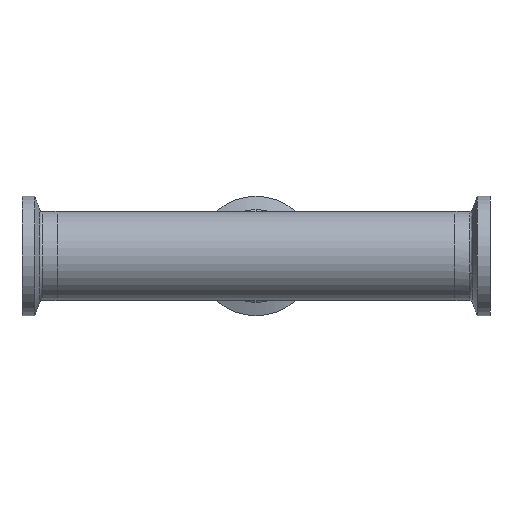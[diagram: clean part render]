
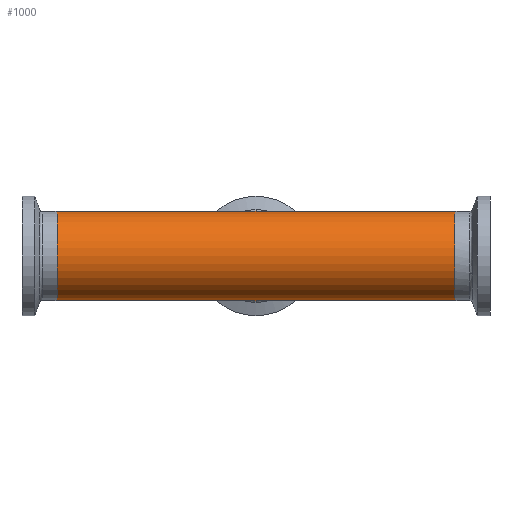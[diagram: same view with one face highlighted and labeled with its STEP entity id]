
A CAD part, front view. The second image highlights one B-rep face of the part: STEP entity #1000.
In plain terms, the highlighted cylindrical face has radius 12.7 mm (diameter 25.4 mm), a partial arc.
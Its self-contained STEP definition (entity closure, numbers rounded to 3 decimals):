
#133 = CARTESIAN_POINT ( 'NONE',  ( 92.621, 0., 12.7 ) ) ;
#150 = CARTESIAN_POINT ( 'NONE',  ( 56.7, 0., 12.7 ) ) ;
#192 = EDGE_CURVE ( 'NONE', #2161, #1236, #862, .T. ) ;
#208 = DIRECTION ( 'NONE',  ( -1., 0., 0. ) ) ;
#298 = LINE ( 'NONE', #2698, #752 ) ;
#313 = CARTESIAN_POINT ( 'NONE',  ( 92.621, 0., 12.7 ) ) ;
#456 = LINE ( 'NONE', #674, #2618 ) ;
#554 = VERTEX_POINT ( 'NONE', #762 ) ;
#612 = DIRECTION ( 'NONE',  ( -1., 0., 0. ) ) ;
#627 = AXIS2_PLACEMENT_3D ( 'NONE', #2638, #1239, #1003 ) ;
#647 = DIRECTION ( 'NONE',  ( 0., 0., 1. ) ) ;
#674 = CARTESIAN_POINT ( 'NONE',  ( 92.621, 0., -12.7 ) ) ;
#700 = EDGE_CURVE ( 'NONE', #978, #554, #1966, .T. ) ;
#706 = DIRECTION ( 'NONE',  ( 0., 0., 1. ) ) ;
#711 = CARTESIAN_POINT ( 'NONE',  ( 0., 0., -12.7 ) ) ;
#752 = VECTOR ( 'NONE', #2050, 1000. ) ;
#762 = CARTESIAN_POINT ( 'NONE',  ( 0., 0., 12.7 ) ) ;
#807 = AXIS2_PLACEMENT_3D ( 'NONE', #898, #208, #647 ) ;
#856 = VECTOR ( 'NONE', #612, 1000. ) ;
#862 = CIRCLE ( 'NONE', #887, 12.7 ) ;
#884 = EDGE_LOOP ( 'NONE', ( #2103, #1309, #1884, #2364, #1242, #902 ) ) ;
#887 = AXIS2_PLACEMENT_3D ( 'NONE', #931, #2157, #706 ) ;
#889 = CYLINDRICAL_SURFACE ( 'NONE', #627, 12.7 ) ;
#898 = CARTESIAN_POINT ( 'NONE',  ( 56.7, 0., 0. ) ) ;
#902 = ORIENTED_EDGE ( 'NONE', *, *, #2675, .F. ) ;
#931 = CARTESIAN_POINT ( 'NONE',  ( -56.7, 0., 0. ) ) ;
#958 = FACE_OUTER_BOUND ( 'NONE', #884, .T. ) ;
#978 = VERTEX_POINT ( 'NONE', #150 ) ;
#1000 = ADVANCED_FACE ( 'NONE', ( #958 ), #889, .T. ) ;
#1003 = DIRECTION ( 'NONE',  ( 0., 0., 1. ) ) ;
#1063 = EDGE_CURVE ( 'NONE', #1226, #1989, #298, .T. ) ;
#1066 = CARTESIAN_POINT ( 'NONE',  ( -56.7, 0., -12.7 ) ) ;
#1183 = DIRECTION ( 'NONE',  ( -1., 0., 0. ) ) ;
#1226 = VERTEX_POINT ( 'NONE', #1565 ) ;
#1236 = VERTEX_POINT ( 'NONE', #1066 ) ;
#1239 = DIRECTION ( 'NONE',  ( -1., 0., 0. ) ) ;
#1242 = ORIENTED_EDGE ( 'NONE', *, *, #192, .T. ) ;
#1309 = ORIENTED_EDGE ( 'NONE', *, *, #1554, .T. ) ;
#1554 = EDGE_CURVE ( 'NONE', #1226, #978, #1929, .T. ) ;
#1565 = CARTESIAN_POINT ( 'NONE',  ( 56.7, 0., -12.7 ) ) ;
#1703 = VECTOR ( 'NONE', #1183, 1000. ) ;
#1884 = ORIENTED_EDGE ( 'NONE', *, *, #700, .T. ) ;
#1929 = CIRCLE ( 'NONE', #807, 12.7 ) ;
#1944 = CARTESIAN_POINT ( 'NONE',  ( -56.7, 0., 12.7 ) ) ;
#1966 = LINE ( 'NONE', #133, #856 ) ;
#1989 = VERTEX_POINT ( 'NONE', #711 ) ;
#2050 = DIRECTION ( 'NONE',  ( -1., 0., 0. ) ) ;
#2103 = ORIENTED_EDGE ( 'NONE', *, *, #1063, .F. ) ;
#2135 = DIRECTION ( 'NONE',  ( -1., 0., 0. ) ) ;
#2157 = DIRECTION ( 'NONE',  ( 1., 0., 0. ) ) ;
#2161 = VERTEX_POINT ( 'NONE', #1944 ) ;
#2230 = LINE ( 'NONE', #313, #1703 ) ;
#2364 = ORIENTED_EDGE ( 'NONE', *, *, #2367, .T. ) ;
#2367 = EDGE_CURVE ( 'NONE', #554, #2161, #2230, .T. ) ;
#2618 = VECTOR ( 'NONE', #2135, 1000. ) ;
#2638 = CARTESIAN_POINT ( 'NONE',  ( 92.621, 0., 0. ) ) ;
#2675 = EDGE_CURVE ( 'NONE', #1989, #1236, #456, .T. ) ;
#2698 = CARTESIAN_POINT ( 'NONE',  ( 92.621, 0., -12.7 ) ) ;
